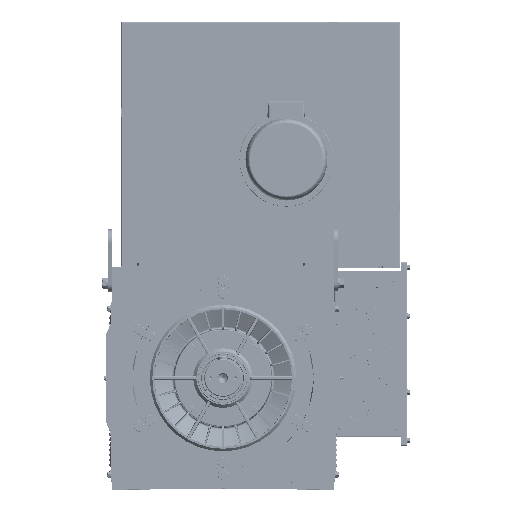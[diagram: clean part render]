
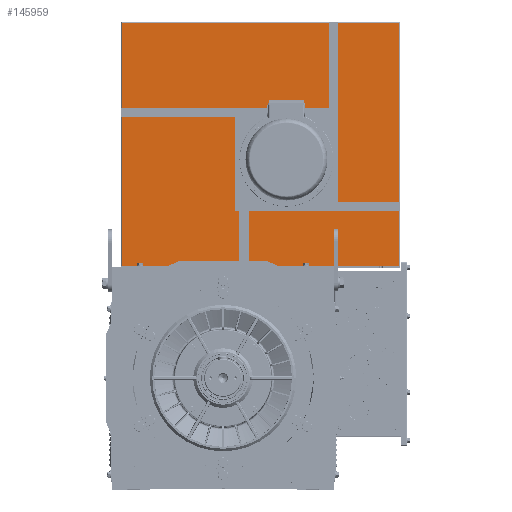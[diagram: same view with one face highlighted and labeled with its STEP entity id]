
A CAD part, top view. The second image highlights one B-rep face of the part: STEP entity #145959.
In plain terms, the highlighted planar face has unit normal (0, 0, 1).
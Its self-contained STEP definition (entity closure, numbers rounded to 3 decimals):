
#931 = DIRECTION ( 'NONE',  ( 0., 1., 0. ) ) ;
#3404 = ORIENTED_EDGE ( 'NONE', *, *, #72155, .F. ) ;
#4235 = CARTESIAN_POINT ( 'NONE',  ( -443., 4., 114. ) ) ;
#4853 = EDGE_LOOP ( 'NONE', ( #99590 ) ) ;
#5056 = CARTESIAN_POINT ( 'NONE',  ( 443., 783., 114. ) ) ;
#8764 = DIRECTION ( 'NONE',  ( 0., 0., -1. ) ) ;
#9948 = CARTESIAN_POINT ( 'NONE',  ( -11.192, 438.692, 114. ) ) ;
#12279 = DIRECTION ( 'NONE',  ( 0., 1., 0. ) ) ;
#15175 = LINE ( 'NONE', #17479, #79149 ) ;
#15602 = AXIS2_PLACEMENT_3D ( 'NONE', #119847, #194580, #156610 ) ;
#17479 = CARTESIAN_POINT ( 'NONE',  ( 443., 785., 114. ) ) ;
#19559 = DIRECTION ( 'NONE',  ( 0., 0., -1. ) ) ;
#27666 = DIRECTION ( 'NONE',  ( -1., 0., 0. ) ) ;
#30226 = CIRCLE ( 'NONE', #181217, 6.25 ) ;
#30873 = DIRECTION ( 'NONE',  ( 0., -1., 0. ) ) ;
#32624 = CIRCLE ( 'NONE', #66824, 6.25 ) ;
#35007 = FACE_BOUND ( 'NONE', #38039, .T. ) ;
#36319 = EDGE_LOOP ( 'NONE', ( #195270, #139251, #157893, #113520 ) ) ;
#37324 = FACE_BOUND ( 'NONE', #170207, .T. ) ;
#38039 = EDGE_LOOP ( 'NONE', ( #154670 ) ) ;
#38763 = DIRECTION ( 'NONE',  ( 0., 0., -1. ) ) ;
#47049 = VERTEX_POINT ( 'NONE', #167674 ) ;
#47094 = CARTESIAN_POINT ( 'NONE',  ( -11.192, 257.558, 114. ) ) ;
#47470 = CARTESIAN_POINT ( 'NONE',  ( -443., 785., 114. ) ) ;
#49203 = DIRECTION ( 'NONE',  ( 0., 0., 1. ) ) ;
#50216 = CIRCLE ( 'NONE', #88000, 6.25 ) ;
#52001 = DIRECTION ( 'NONE',  ( 0., 1., 0. ) ) ;
#53233 = ORIENTED_EDGE ( 'NONE', *, *, #228009, .T. ) ;
#53784 = EDGE_CURVE ( 'NONE', #179743, #179743, #193677, .T. ) ;
#54960 = CARTESIAN_POINT ( 'NONE',  ( 176.192, 438.692, 114. ) ) ;
#55144 = FACE_BOUND ( 'NONE', #155792, .T. ) ;
#55899 = EDGE_CURVE ( 'NONE', #141724, #141724, #159945, .T. ) ;
#57589 = VERTEX_POINT ( 'NONE', #128703 ) ;
#58438 = EDGE_LOOP ( 'NONE', ( #53233 ) ) ;
#63763 = VERTEX_POINT ( 'NONE', #208460 ) ;
#66824 = AXIS2_PLACEMENT_3D ( 'NONE', #84737, #228289, #172528 ) ;
#72155 = EDGE_CURVE ( 'NONE', #133889, #133889, #162115, .T. ) ;
#72187 = VERTEX_POINT ( 'NONE', #219220 ) ;
#74121 = DIRECTION ( 'NONE',  ( 0., 1., 0. ) ) ;
#79149 = VECTOR ( 'NONE', #89808, 1000. ) ;
#80279 = VECTOR ( 'NONE', #30873, 1000. ) ;
#80599 = CARTESIAN_POINT ( 'NONE',  ( 198., 345., 114. ) ) ;
#84737 = CARTESIAN_POINT ( 'NONE',  ( -11.192, 251.308, 114. ) ) ;
#84874 = EDGE_CURVE ( 'NONE', #182385, #182385, #50216, .T. ) ;
#85450 = LINE ( 'NONE', #47470, #80279 ) ;
#86259 = CIRCLE ( 'NONE', #226457, 6.25 ) ;
#87530 = CIRCLE ( 'NONE', #15602, 6.25 ) ;
#88000 = AXIS2_PLACEMENT_3D ( 'NONE', #179993, #38763, #931 ) ;
#88246 = DIRECTION ( 'NONE',  ( 0., 0., -1. ) ) ;
#89808 = DIRECTION ( 'NONE',  ( 0., 1., 0. ) ) ;
#92243 = CARTESIAN_POINT ( 'NONE',  ( 82.5, 212.5, 114. ) ) ;
#98906 = DIRECTION ( 'NONE',  ( 0., 1., 0. ) ) ;
#99590 = ORIENTED_EDGE ( 'NONE', *, *, #84874, .T. ) ;
#101664 = AXIS2_PLACEMENT_3D ( 'NONE', #215235, #49203, #214080 ) ;
#104180 = EDGE_CURVE ( 'NONE', #202886, #155224, #85450, .T. ) ;
#107140 = DIRECTION ( 'NONE',  ( 0., 1., 0. ) ) ;
#108495 = CARTESIAN_POINT ( 'NONE',  ( 445., 785., 114. ) ) ;
#109651 = PLANE ( 'NONE',  #223191 ) ;
#113520 = ORIENTED_EDGE ( 'NONE', *, *, #203011, .T. ) ;
#114750 = VERTEX_POINT ( 'NONE', #47094 ) ;
#118583 = EDGE_CURVE ( 'NONE', #152818, #202886, #226981, .T. ) ;
#119847 = CARTESIAN_POINT ( 'NONE',  ( -50., 345., 114. ) ) ;
#123454 = EDGE_LOOP ( 'NONE', ( #175744 ) ) ;
#124861 = ORIENTED_EDGE ( 'NONE', *, *, #228239, .T. ) ;
#125465 = DIRECTION ( 'NONE',  ( 0., 0., -1. ) ) ;
#127418 = FACE_BOUND ( 'NONE', #222721, .T. ) ;
#127845 = VERTEX_POINT ( 'NONE', #154995 ) ;
#127919 = ORIENTED_EDGE ( 'NONE', *, *, #148871, .T. ) ;
#128596 = FACE_BOUND ( 'NONE', #123454, .T. ) ;
#128703 = CARTESIAN_POINT ( 'NONE',  ( -50., 351.25, 114. ) ) ;
#130110 = CARTESIAN_POINT ( 'NONE',  ( 176.192, 257.558, 114. ) ) ;
#133889 = VERTEX_POINT ( 'NONE', #80599 ) ;
#134016 = EDGE_CURVE ( 'NONE', #72187, #72187, #86259, .T. ) ;
#134799 = CIRCLE ( 'NONE', #195493, 6.25 ) ;
#139251 = ORIENTED_EDGE ( 'NONE', *, *, #104180, .T. ) ;
#141724 = VERTEX_POINT ( 'NONE', #177396 ) ;
#142347 = DIRECTION ( 'NONE',  ( 0., 0., -1. ) ) ;
#144021 = FACE_BOUND ( 'NONE', #58438, .T. ) ;
#145177 = FACE_BOUND ( 'NONE', #200750, .T. ) ;
#145959 = ADVANCED_FACE ( 'NONE', ( #145177, #127418, #199823, #144021, #163053, #35007, #128596, #55144, #37324, #161887 ), #109651, .F. ) ;
#148871 = EDGE_CURVE ( 'NONE', #57589, #57589, #87530, .T. ) ;
#151077 = CARTESIAN_POINT ( 'NONE',  ( 82.5, 477.5, 114. ) ) ;
#152818 = VERTEX_POINT ( 'NONE', #5056 ) ;
#154670 = ORIENTED_EDGE ( 'NONE', *, *, #55899, .T. ) ;
#154995 = CARTESIAN_POINT ( 'NONE',  ( 82.5, 218.75, 114. ) ) ;
#155224 = VERTEX_POINT ( 'NONE', #4235 ) ;
#155792 = EDGE_LOOP ( 'NONE', ( #127919 ) ) ;
#156610 = DIRECTION ( 'NONE',  ( 0., 1., 0. ) ) ;
#157893 = ORIENTED_EDGE ( 'NONE', *, *, #214062, .F. ) ;
#159945 = CIRCLE ( 'NONE', #231985, 6.25 ) ;
#161376 = DIRECTION ( 'NONE',  ( 0., 1., 0. ) ) ;
#161887 = FACE_OUTER_BOUND ( 'NONE', #36319, .T. ) ;
#162115 = CIRCLE ( 'NONE', #101664, 115.5 ) ;
#163053 = FACE_BOUND ( 'NONE', #215767, .T. ) ;
#166916 = VECTOR ( 'NONE', #170514, 1000. ) ;
#167674 = CARTESIAN_POINT ( 'NONE',  ( 443., 4., 114. ) ) ;
#170207 = EDGE_LOOP ( 'NONE', ( #3404 ) ) ;
#170514 = DIRECTION ( 'NONE',  ( -1., 0., 0. ) ) ;
#171021 = AXIS2_PLACEMENT_3D ( 'NONE', #9948, #8764, #12279 ) ;
#172379 = CARTESIAN_POINT ( 'NONE',  ( 445., 783., 114. ) ) ;
#172528 = DIRECTION ( 'NONE',  ( 0., 1., 0. ) ) ;
#175744 = ORIENTED_EDGE ( 'NONE', *, *, #225203, .T. ) ;
#177396 = CARTESIAN_POINT ( 'NONE',  ( 215., 351.25, 114. ) ) ;
#179743 = VERTEX_POINT ( 'NONE', #180887 ) ;
#179993 = CARTESIAN_POINT ( 'NONE',  ( 176.192, 251.308, 114. ) ) ;
#180887 = CARTESIAN_POINT ( 'NONE',  ( -11.192, 444.942, 114. ) ) ;
#181217 = AXIS2_PLACEMENT_3D ( 'NONE', #92243, #125465, #52001 ) ;
#182385 = VERTEX_POINT ( 'NONE', #130110 ) ;
#182399 = ORIENTED_EDGE ( 'NONE', *, *, #134016, .T. ) ;
#191811 = LINE ( 'NONE', #208457, #166916 ) ;
#193677 = CIRCLE ( 'NONE', #171021, 6.25 ) ;
#194580 = DIRECTION ( 'NONE',  ( 0., 0., -1. ) ) ;
#195270 = ORIENTED_EDGE ( 'NONE', *, *, #118583, .T. ) ;
#195493 = AXIS2_PLACEMENT_3D ( 'NONE', #54960, #88246, #107140 ) ;
#197022 = VECTOR ( 'NONE', #27666, 1000. ) ;
#199823 = FACE_BOUND ( 'NONE', #4853, .T. ) ;
#200750 = EDGE_LOOP ( 'NONE', ( #211638 ) ) ;
#202886 = VERTEX_POINT ( 'NONE', #206212 ) ;
#203011 = EDGE_CURVE ( 'NONE', #47049, #152818, #15175, .T. ) ;
#206212 = CARTESIAN_POINT ( 'NONE',  ( -443., 783., 114. ) ) ;
#208457 = CARTESIAN_POINT ( 'NONE',  ( 445., 4., 114. ) ) ;
#208460 = CARTESIAN_POINT ( 'NONE',  ( 176.192, 444.942, 114. ) ) ;
#211638 = ORIENTED_EDGE ( 'NONE', *, *, #53784, .T. ) ;
#214062 = EDGE_CURVE ( 'NONE', #47049, #155224, #191811, .T. ) ;
#214080 = DIRECTION ( 'NONE',  ( 1., 0., 0. ) ) ;
#215235 = CARTESIAN_POINT ( 'NONE',  ( 82.5, 345., 114. ) ) ;
#215767 = EDGE_LOOP ( 'NONE', ( #182399 ) ) ;
#217135 = CARTESIAN_POINT ( 'NONE',  ( 215., 345., 114. ) ) ;
#219220 = CARTESIAN_POINT ( 'NONE',  ( 82.5, 483.75, 114. ) ) ;
#222721 = EDGE_LOOP ( 'NONE', ( #124861 ) ) ;
#223191 = AXIS2_PLACEMENT_3D ( 'NONE', #108495, #19559, #74121 ) ;
#223540 = DIRECTION ( 'NONE',  ( 0., 0., -1. ) ) ;
#225203 = EDGE_CURVE ( 'NONE', #127845, #127845, #30226, .T. ) ;
#226457 = AXIS2_PLACEMENT_3D ( 'NONE', #151077, #223540, #98906 ) ;
#226981 = LINE ( 'NONE', #172379, #197022 ) ;
#228009 = EDGE_CURVE ( 'NONE', #114750, #114750, #32624, .T. ) ;
#228239 = EDGE_CURVE ( 'NONE', #63763, #63763, #134799, .T. ) ;
#228289 = DIRECTION ( 'NONE',  ( 0., 0., -1. ) ) ;
#231985 = AXIS2_PLACEMENT_3D ( 'NONE', #217135, #142347, #161376 ) ;
